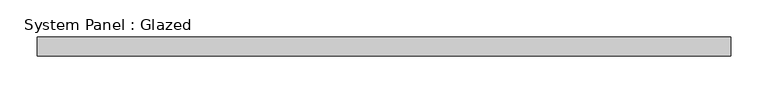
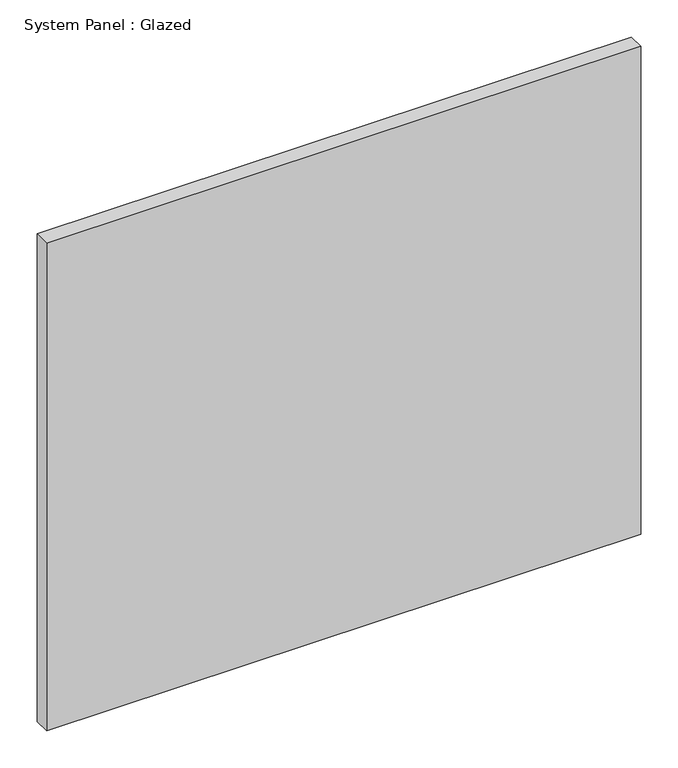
"""IFC4 building model written with IfcOpenShell, lengths in millimetres: plate geometry, System Panel : Glazed."""

from ifc_helpers import new_model, si_unit, origin, origin_with_axes, place, context, project, spatial, polyline, outline, extrude, source, transform, mapped, element, save


def system_panel_glazed_f376a18f(model_context):
    return source(origin(), model_context, "Body", "SweptSolid", [
        extrude(outline(polyline([(462.5088063, 19.05), (-462.5088063, 19.05), (-462.5088063, 44.45), (462.5088063, 44.45), (462.5088063, 19.05)])), origin_with_axes(), (0.0, 0.0, 1.0), 802.4190025),
    ])


if __name__ == "__main__":
    model = new_model("IFC4")
    model_context = context("Model", 3, world=origin())
    ifc_project = project(units=[si_unit("LENGTHUNIT", "METRE", prefix="MILLI")], contexts=[model_context])
    site = spatial("IfcSite", under=ifc_project)
    building = spatial("IfcBuilding", under=site)
    placement = place(None, origin())
    system_panel_glazed_shape = system_panel_glazed_f376a18f(model_context)
    element("IfcPlate", 1, ObjectType="System Panel : Glazed", at=placement, inside=building, context=model_context, shape_type="MappedRepresentation", body=[
        mapped(system_panel_glazed_shape, transform((0.0, 0.0, 0.0), x_axis=(1.0, 0.0, 0.0), y_axis=(0.0, 1.0, 0.0), z_axis=(0.0, 0.0, 1.0))),
    ])
    save(model, "model.ifc")
